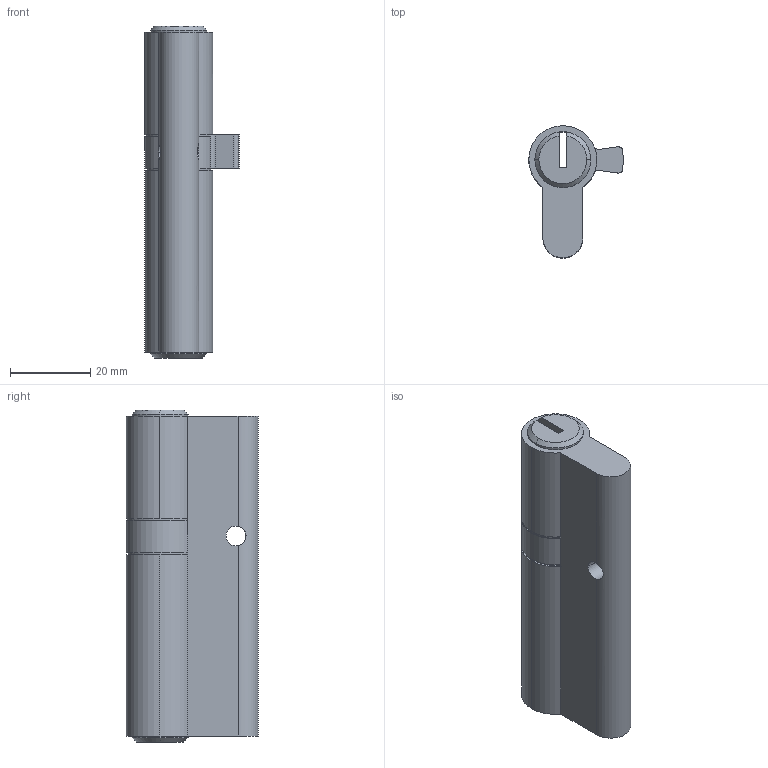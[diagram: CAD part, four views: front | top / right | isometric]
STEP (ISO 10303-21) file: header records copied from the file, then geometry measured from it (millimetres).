
FILE_DESCRIPTION (( 'STEP AP214' ), '1' );
FILE_NAME ('TPL-H-EU-519-L 29Oct2024.STEP', '2024-10-29T22:26:07', ( '' ), ( '' ), 'SwSTEP 2.0', 'SolidWorks 2023', '' );
FILE_SCHEMA (( 'AUTOMOTIVE_DESIGN' ));
Length unit declared in the file: millimetre
Products named in the file (1): TPL-H-EU-519-L 29Oct2024
Bounding box: 23.58 x 33 x 83 mm (x, y, z)
Volume: 29709.2 mm3; surface area: 9685.2 mm2
Topology: 1 solids, 1 shells, 51 faces, 141 edges, 88 vertices
Faces by surface type: cylinder 29, plane 16, cone 6
Entity records: 1740 total; most frequent: CARTESIAN_POINT 357, DIRECTION 307, ORIENTED_EDGE 282, EDGE_CURVE 141, AXIS2_PLACEMENT_3D 122, VERTEX_POINT 88, CIRCLE 70, LINE 63
